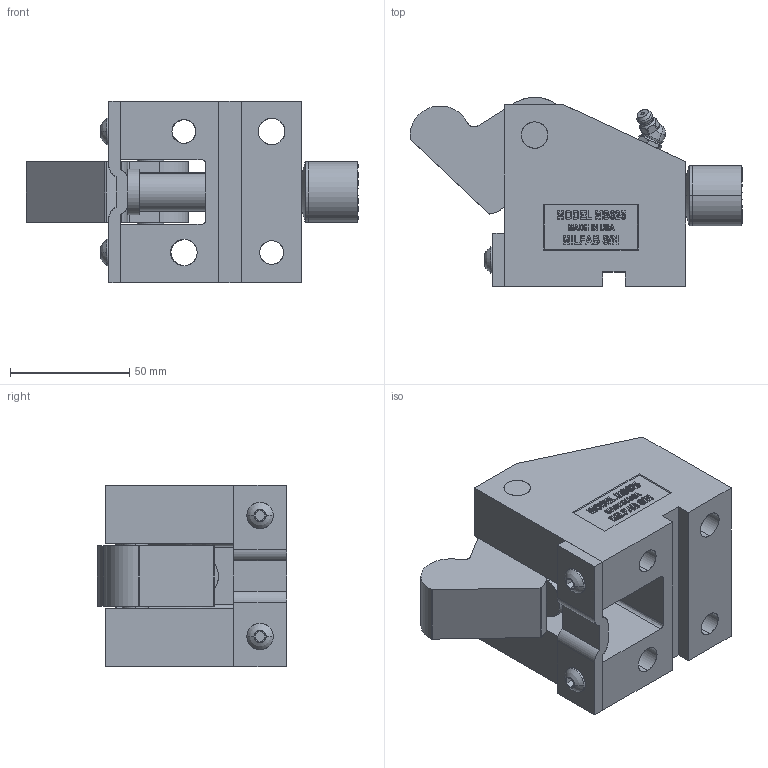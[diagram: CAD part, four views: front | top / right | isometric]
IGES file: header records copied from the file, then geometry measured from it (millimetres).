
Start section: SolidWorks IGES file using analytic representation for surfaces
Global section: file name: Y:\3\MS62545\OPEN\MS62545-O.IGS; native system: SolidWorks 2006 by SolidWorks Corporation; preprocessor: SolidWorks 2006 by SolidWorks Corporation; author: Jim; date: 090126.151615; units: inch
Bounding box: 139.36 x 79.37 x 76.2 mm (x, y, z)
Surface area: 77154.4 mm2 (no closed solid volume)
Topology: 0 solids, 0 shells, 597 faces, 7499 edges, 7497 vertices
Faces by surface type: bspline 467, revolution 130
